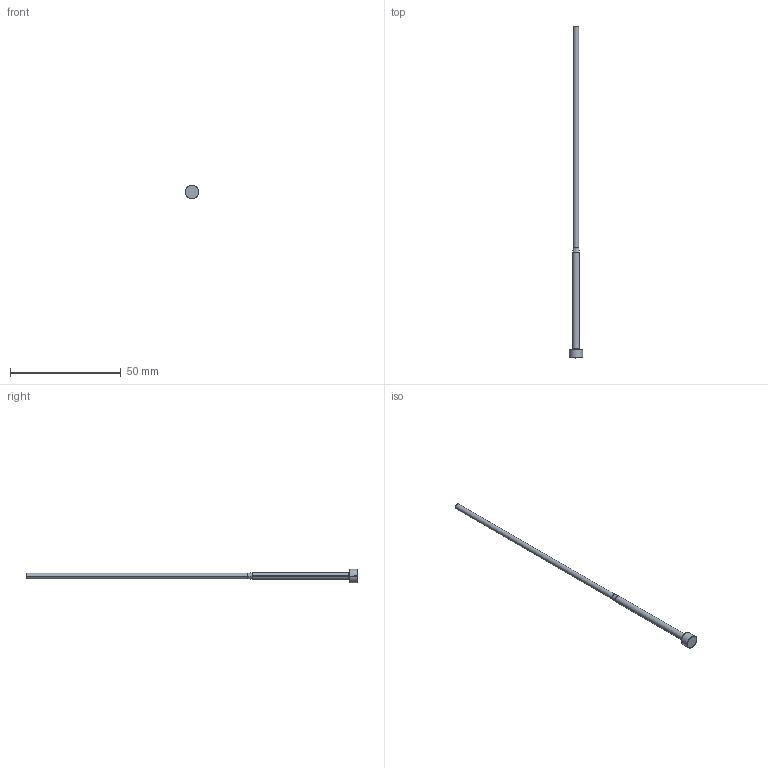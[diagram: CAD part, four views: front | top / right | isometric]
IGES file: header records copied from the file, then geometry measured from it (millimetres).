
Start section: SolidWorks IGES file using analytic representation for surfaces
Global section: file name: C:\Users\365admin\AppData\Local\Temp\InFlowXlateWorking\EPJ025X3L150-50.igs; native system: SolidWorks 2018; preprocessor: SolidWorks 2018; author: 365admin; date: 200822.065022; units: millimetre
Bounding box: 6 x 150 x 6 mm (x, y, z)
Surface area: 1345.4 mm2 (no closed solid volume)
Topology: 0 solids, 0 shells, 13 faces, 168 edges, 168 vertices
Faces by surface type: bspline 7, revolution 6
